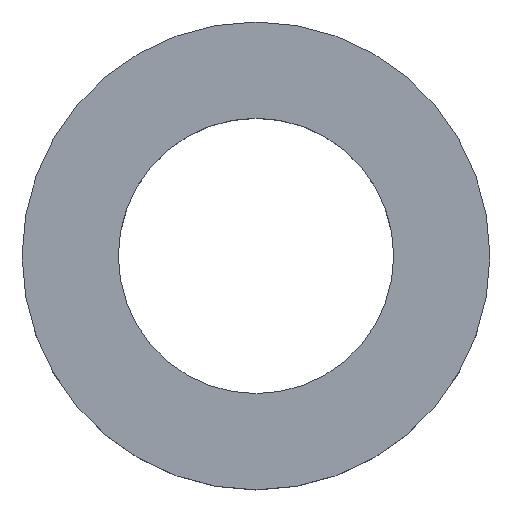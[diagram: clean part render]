
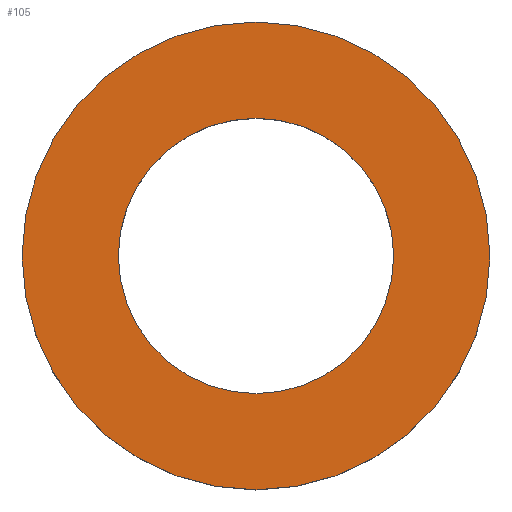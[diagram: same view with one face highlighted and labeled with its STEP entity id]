
A CAD part, top view. The second image highlights one B-rep face of the part: STEP entity #105.
In plain terms, the highlighted planar face has unit normal (0, 0, 1).
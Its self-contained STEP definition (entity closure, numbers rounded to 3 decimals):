
#21 = EDGE_CURVE('',#22,#22,#24,.T.);
#22 = VERTEX_POINT('',#23);
#23 = CARTESIAN_POINT('',(3.5,0.,1.3));
#24 = SURFACE_CURVE('',#25,(#30,#42),.PCURVE_S1.);
#25 = CIRCLE('',#26,3.5);
#26 = AXIS2_PLACEMENT_3D('',#27,#28,#29);
#27 = CARTESIAN_POINT('',(0.,0.,1.3));
#28 = DIRECTION('',(0.,0.,1.));
#29 = DIRECTION('',(1.,0.,-0.));
#30 = PCURVE('',#31,#36);
#31 = CYLINDRICAL_SURFACE('',#32,3.5);
#32 = AXIS2_PLACEMENT_3D('',#33,#34,#35);
#33 = CARTESIAN_POINT('',(0.,0.,0.));
#34 = DIRECTION('',(0.,0.,1.));
#35 = DIRECTION('',(1.,0.,-0.));
#36 = DEFINITIONAL_REPRESENTATION('',(#37),#41);
#37 = LINE('',#38,#39);
#38 = CARTESIAN_POINT('',(0.,1.3));
#39 = VECTOR('',#40,1.);
#40 = DIRECTION('',(1.,0.));
#41 = ( GEOMETRIC_REPRESENTATION_CONTEXT(2) 
PARAMETRIC_REPRESENTATION_CONTEXT() REPRESENTATION_CONTEXT('2D SPACE',''
  ) );
#42 = PCURVE('',#43,#48);
#43 = PLANE('',#44);
#44 = AXIS2_PLACEMENT_3D('',#45,#46,#47);
#45 = CARTESIAN_POINT('',(0.,0.,1.3));
#46 = DIRECTION('',(0.,0.,1.));
#47 = DIRECTION('',(1.,0.,-0.));
#48 = DEFINITIONAL_REPRESENTATION('',(#49),#53);
#49 = CIRCLE('',#50,3.5);
#50 = AXIS2_PLACEMENT_2D('',#51,#52);
#51 = CARTESIAN_POINT('',(0.,0.));
#52 = DIRECTION('',(1.,0.));
#53 = ( GEOMETRIC_REPRESENTATION_CONTEXT(2) 
PARAMETRIC_REPRESENTATION_CONTEXT() REPRESENTATION_CONTEXT('2D SPACE',''
  ) );
#105 = ADVANCED_FACE('',(#106,#109),#43,.T.);
#106 = FACE_BOUND('',#107,.T.);
#107 = EDGE_LOOP('',(#108));
#108 = ORIENTED_EDGE('',*,*,#21,.T.);
#109 = FACE_BOUND('',#110,.T.);
#110 = EDGE_LOOP('',(#111));
#111 = ORIENTED_EDGE('',*,*,#112,.F.);
#112 = EDGE_CURVE('',#113,#113,#115,.T.);
#113 = VERTEX_POINT('',#114);
#114 = CARTESIAN_POINT('',(2.06,0.,1.3));
#115 = SURFACE_CURVE('',#116,(#121,#128),.PCURVE_S1.);
#116 = CIRCLE('',#117,2.06);
#117 = AXIS2_PLACEMENT_3D('',#118,#119,#120);
#118 = CARTESIAN_POINT('',(0.,0.,1.3));
#119 = DIRECTION('',(0.,0.,1.));
#120 = DIRECTION('',(1.,0.,-0.));
#121 = PCURVE('',#43,#122);
#122 = DEFINITIONAL_REPRESENTATION('',(#123),#127);
#123 = CIRCLE('',#124,2.06);
#124 = AXIS2_PLACEMENT_2D('',#125,#126);
#125 = CARTESIAN_POINT('',(0.,0.));
#126 = DIRECTION('',(1.,0.));
#127 = ( GEOMETRIC_REPRESENTATION_CONTEXT(2) 
PARAMETRIC_REPRESENTATION_CONTEXT() REPRESENTATION_CONTEXT('2D SPACE',''
  ) );
#128 = PCURVE('',#129,#134);
#129 = CYLINDRICAL_SURFACE('',#130,2.06);
#130 = AXIS2_PLACEMENT_3D('',#131,#132,#133);
#131 = CARTESIAN_POINT('',(0.,0.,-1.));
#132 = DIRECTION('',(0.,0.,1.));
#133 = DIRECTION('',(1.,0.,-0.));
#134 = DEFINITIONAL_REPRESENTATION('',(#135),#139);
#135 = LINE('',#136,#137);
#136 = CARTESIAN_POINT('',(0.,2.3));
#137 = VECTOR('',#138,1.);
#138 = DIRECTION('',(1.,0.));
#139 = ( GEOMETRIC_REPRESENTATION_CONTEXT(2) 
PARAMETRIC_REPRESENTATION_CONTEXT() REPRESENTATION_CONTEXT('2D SPACE',''
  ) );
